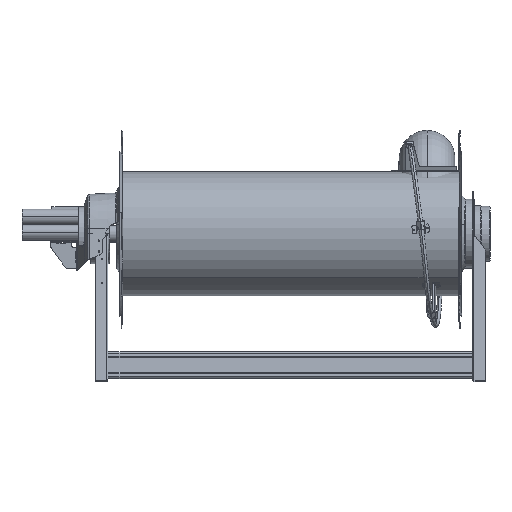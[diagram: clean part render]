
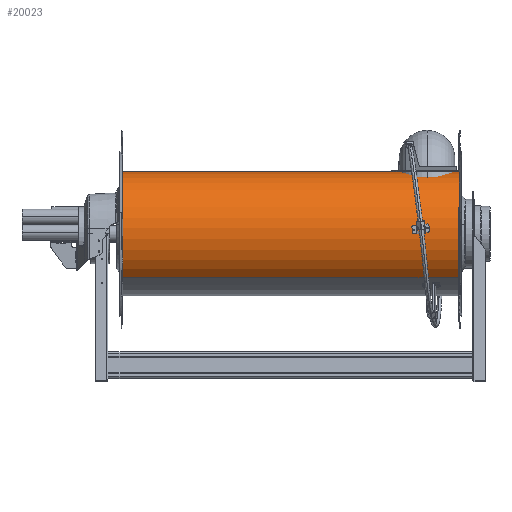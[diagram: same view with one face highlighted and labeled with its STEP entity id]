
A CAD part, top view. The second image highlights one B-rep face of the part: STEP entity #20023.
In plain terms, the highlighted cylindrical face has radius 225 mm (diameter 450 mm), a partial arc.
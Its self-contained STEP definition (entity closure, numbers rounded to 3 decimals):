
#19936=DIRECTION('',(-1.,0.,0.));
#19937=VECTOR('',#19936,1220.);
#19938=CARTESIAN_POINT('',(0.,225.,0.));
#19939=LINE('',#19938,#19937);
#19943=CARTESIAN_POINT('',(0.,0.,0.));
#19944=DIRECTION('',(1.,0.,0.));
#19945=DIRECTION('',(0.,1.,0.));
#19946=AXIS2_PLACEMENT_3D('',#19943,#19944,#19945);
#19951=DIRECTION('',(-1.,0.,0.));
#19952=VECTOR('',#19951,1220.);
#19953=CARTESIAN_POINT('',(0.,-225.,0.));
#19954=LINE('',#19953,#19952);
#19966=CARTESIAN_POINT('',(-1220.,0.,0.));
#19967=DIRECTION('',(1.,0.,0.));
#19968=DIRECTION('',(0.,1.,0.));
#19969=AXIS2_PLACEMENT_3D('',#19966,#19967,#19968);
#19982=CARTESIAN_POINT('',(0.,225.,0.));
#19983=CARTESIAN_POINT('',(-1220.,225.,0.));
#19984=VERTEX_POINT('',#19982);
#19985=VERTEX_POINT('',#19983);
#19986=CARTESIAN_POINT('',(0.,-225.,0.));
#19987=CARTESIAN_POINT('',(-1220.,-225.,0.));
#19988=VERTEX_POINT('',#19986);
#19989=VERTEX_POINT('',#19987);
#20009=CARTESIAN_POINT('',(61.,0.,0.));
#20010=DIRECTION('',(-1.,0.,0.));
#20011=DIRECTION('',(0.,1.,0.));
#20012=AXIS2_PLACEMENT_3D('',#20009,#20010,#20011);
#20013=CYLINDRICAL_SURFACE('',#20012,225.);
#20015=ORIENTED_EDGE('',*,*,#20014,.F.);
#20016=ORIENTED_EDGE('',*,*,#19995,.T.);
#20018=ORIENTED_EDGE('',*,*,#20017,.T.);
#20020=ORIENTED_EDGE('',*,*,#20019,.F.);
#20021=EDGE_LOOP('',(#20015,#20016,#20018,#20020));
#20022=FACE_OUTER_BOUND('',#20021,.F.);
#19947=CIRCLE('',#19946,225.);
#19970=CIRCLE('',#19969,225.);
#19995=EDGE_CURVE('',#19984,#19988,#19947,.T.);
#20014=EDGE_CURVE('',#19984,#19985,#19939,.T.);
#20017=EDGE_CURVE('',#19988,#19989,#19954,.T.);
#20019=EDGE_CURVE('',#19985,#19989,#19970,.T.);
#20023=ADVANCED_FACE('',(#20022),#20013,.T.);
